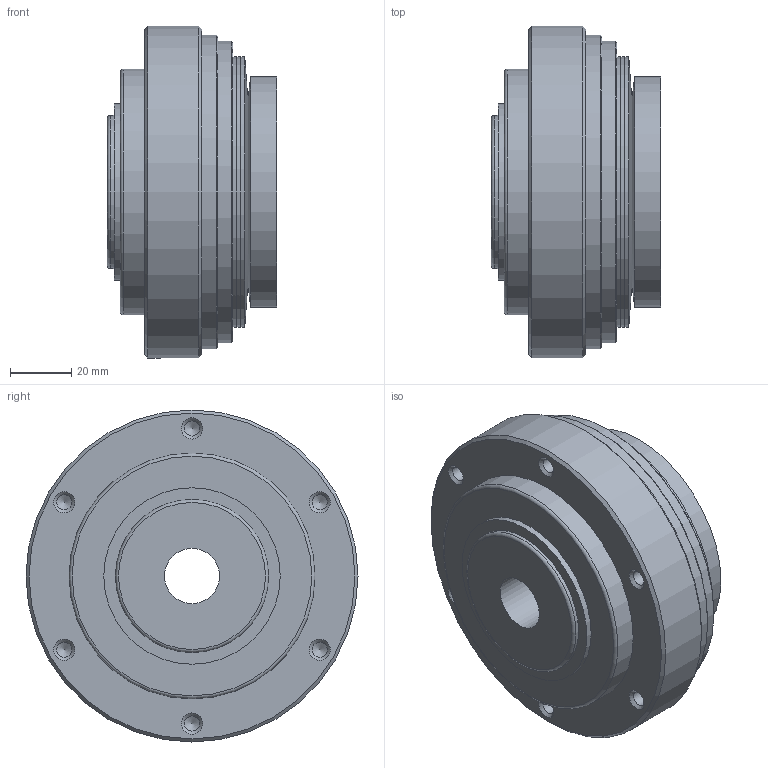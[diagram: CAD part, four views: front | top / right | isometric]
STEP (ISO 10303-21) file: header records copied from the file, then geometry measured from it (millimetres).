
FILE_DESCRIPTION(/* description */ ('Unknown'),/* implementation_level */ '2;1');
FILE_NAME(/* name */ 'SKVA-N 220',/* time_stamp */ '2025-02-05T12:08:14+01:00',/* author */ ('Unknown'),/* organization */ ('Unknown'),/* preprocessor_version */ 'ST-DEVELOPER v18.102',/* originating_system */ 'Solid Edge',/* authorisation */ 'Unknown');
FILE_SCHEMA (('AUTOMOTIVE_DESIGN {1 0 10303 214 3 1 1}'));
Length unit declared in the file: millimetre
Products named in the file (1): SKVA-N 220
Bounding box: 55.1 x 108 x 108 mm (x, y, z)
Volume: 351191.4 mm3; surface area: 39994.6 mm2
Topology: 1 solids, 1 shells, 53 faces, 117 edges, 71 vertices
Faces by surface type: cone 25, cylinder 19, plane 7, torus 2
Full cylindrical faces by diameter (mm): 4.917 x12, 18 x1, 49.8 x1, 57.4 x1, 75 x1, 98 x1, 102 x1, 108 x1
Entity records: 1487 total; most frequent: DIRECTION 214, CARTESIAN_POINT 166, FACE_BOUND 112, AXIS2_PLACEMENT_3D 107, ORIENTED_EDGE 106, EDGE_LOOP 106, VERTEX_POINT 59, EDGE_CURVE 53
